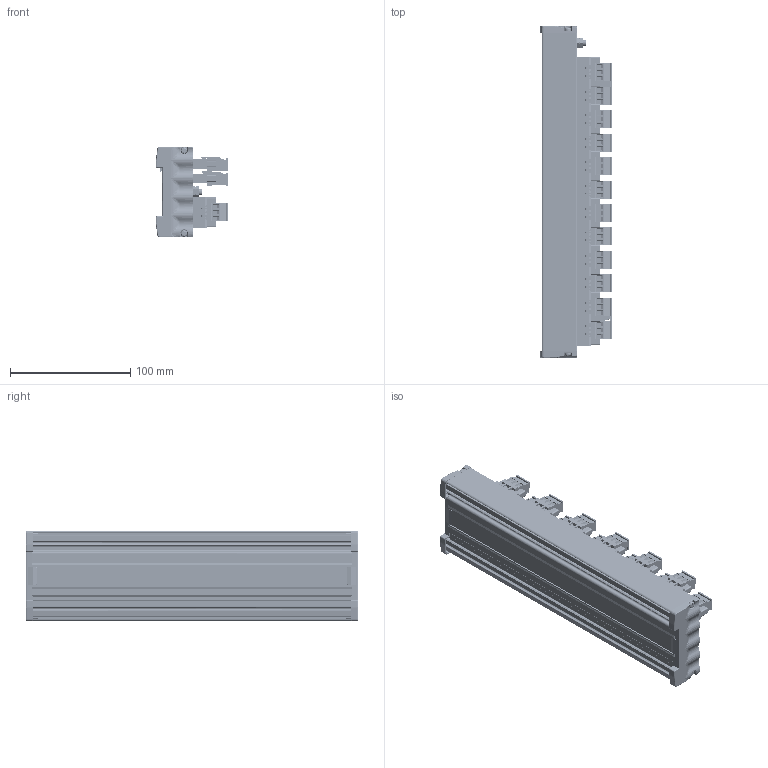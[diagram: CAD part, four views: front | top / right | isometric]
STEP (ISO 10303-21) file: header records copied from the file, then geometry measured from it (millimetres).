
FILE_DESCRIPTION (( 'STEP AP203' ), '1' );
FILE_NAME ('JRBS-40SC-12R.step', '2013-04-18T14:31:05', ( 'Turck User' ), ( '' ), 'SwSTEP 2.0', 'SolidWorks 2012', '' );
FILE_SCHEMA (( 'CONFIG_CONTROL_DESIGN' ));
Products named in the file (1): JRBS-40SC-12R
Bounding box: 60.2 x 276 x 75.4 mm (x, y, z)
Volume: 575565.5 mm3; surface area: 163715.9 mm2
Topology: 1 solids, 203 shells, 7659 faces, 20643 edges, 13617 vertices
Faces by surface type: plane 4759, cylinder 2337, bspline 386, cone 177
Entity records: 271216 total; most frequent: CARTESIAN_POINT 83859, ORIENTED_EDGE 41182, DIRECTION 34938, EDGE_CURVE 20591, VERTEX_POINT 13617, LINE 13560, VECTOR 13560, AXIS2_PLACEMENT_3D 10689
